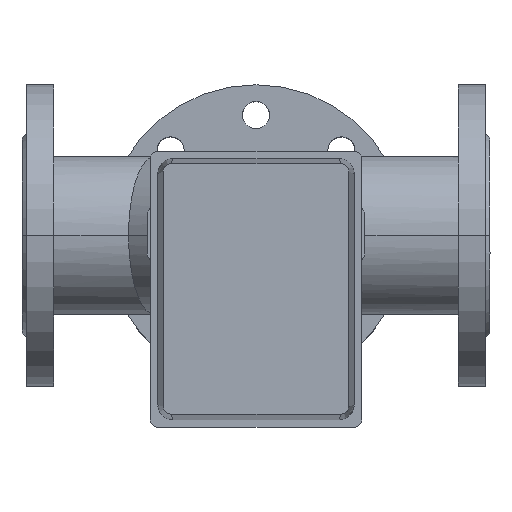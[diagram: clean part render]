
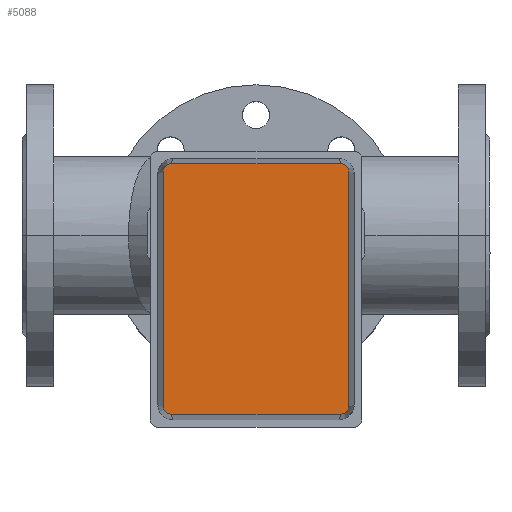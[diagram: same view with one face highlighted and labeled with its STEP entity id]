
A CAD part, top view. The second image highlights one B-rep face of the part: STEP entity #5088.
In plain terms, the highlighted planar face has unit normal (0, 0, 1).
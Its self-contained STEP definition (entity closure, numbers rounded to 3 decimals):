
#426=LINE('',#9183,#720);
#427=LINE('',#9187,#721);
#428=LINE('',#9191,#722);
#429=LINE('',#9195,#723);
#720=VECTOR('',#7085,304.8);
#721=VECTOR('',#7088,304.8);
#722=VECTOR('',#7091,304.8);
#723=VECTOR('',#7094,304.8);
#1252=FACE_OUTER_BOUND('',#1613,.T.);
#1613=EDGE_LOOP('',(#4220,#4221,#4222,#4223,#4224,#4225,#4226,#4227));
#1978=CIRCLE('',#5682,5.);
#1979=CIRCLE('',#5683,5.);
#1980=CIRCLE('',#5684,5.);
#1981=CIRCLE('',#5685,5.);
#2391=VERTEX_POINT('',#9181);
#2392=VERTEX_POINT('',#9182);
#2393=VERTEX_POINT('',#9184);
#2394=VERTEX_POINT('',#9186);
#2395=VERTEX_POINT('',#9188);
#2396=VERTEX_POINT('',#9190);
#2397=VERTEX_POINT('',#9192);
#2398=VERTEX_POINT('',#9194);
#3015=EDGE_CURVE('',#2391,#2392,#426,.T.);
#3016=EDGE_CURVE('',#2392,#2393,#1978,.T.);
#3017=EDGE_CURVE('',#2393,#2394,#427,.T.);
#3018=EDGE_CURVE('',#2394,#2395,#1979,.T.);
#3019=EDGE_CURVE('',#2395,#2396,#428,.T.);
#3020=EDGE_CURVE('',#2396,#2397,#1980,.T.);
#3021=EDGE_CURVE('',#2397,#2398,#429,.T.);
#3022=EDGE_CURVE('',#2398,#2391,#1981,.T.);
#4220=ORIENTED_EDGE('',*,*,#3015,.T.);
#4221=ORIENTED_EDGE('',*,*,#3016,.T.);
#4222=ORIENTED_EDGE('',*,*,#3017,.T.);
#4223=ORIENTED_EDGE('',*,*,#3018,.T.);
#4224=ORIENTED_EDGE('',*,*,#3019,.T.);
#4225=ORIENTED_EDGE('',*,*,#3020,.T.);
#4226=ORIENTED_EDGE('',*,*,#3021,.T.);
#4227=ORIENTED_EDGE('',*,*,#3022,.T.);
#4544=PLANE('',#5681);
#5088=ADVANCED_FACE('',(#1252),#4544,.T.);
#5681=AXIS2_PLACEMENT_3D('',#9180,#7083,#7084);
#5682=AXIS2_PLACEMENT_3D('',#9185,#7086,#7087);
#5683=AXIS2_PLACEMENT_3D('',#9189,#7089,#7090);
#5684=AXIS2_PLACEMENT_3D('',#9193,#7092,#7093);
#5685=AXIS2_PLACEMENT_3D('',#9196,#7095,#7096);
#7083=DIRECTION('center_axis',(0.,0.,1.));
#7084=DIRECTION('ref_axis',(0.,-1.,0.));
#7085=DIRECTION('',(0.,-1.,0.));
#7086=DIRECTION('center_axis',(0.,0.,1.));
#7087=DIRECTION('ref_axis',(1.,0.,0.));
#7088=DIRECTION('',(1.,0.,0.));
#7089=DIRECTION('center_axis',(0.,0.,1.));
#7090=DIRECTION('ref_axis',(1.,0.,0.));
#7091=DIRECTION('',(0.,1.,0.));
#7092=DIRECTION('center_axis',(0.,0.,1.));
#7093=DIRECTION('ref_axis',(1.,0.,0.));
#7094=DIRECTION('',(-1.,0.,0.));
#7095=DIRECTION('center_axis',(0.,0.,1.));
#7096=DIRECTION('ref_axis',(1.,0.,0.));
#9180=CARTESIAN_POINT('Origin',(-36.469,0.,
506.));
#9181=CARTESIAN_POINT('',(-119.36,56.4,506.));
#9182=CARTESIAN_POINT('',(-119.36,-56.4,506.));
#9183=CARTESIAN_POINT('',(-119.36,-56.4,506.));
#9184=CARTESIAN_POINT('',(-114.36,-61.4,506.));
#9185=CARTESIAN_POINT('Origin',(-114.36,-56.4,506.));
#9186=CARTESIAN_POINT('',(41.421,-61.4,506.));
#9187=CARTESIAN_POINT('',(41.421,-61.4,506.));
#9188=CARTESIAN_POINT('',(46.421,-56.4,506.));
#9189=CARTESIAN_POINT('Origin',(41.421,-56.4,506.));
#9190=CARTESIAN_POINT('',(46.421,56.4,506.));
#9191=CARTESIAN_POINT('',(46.421,56.4,506.));
#9192=CARTESIAN_POINT('',(41.421,61.4,506.));
#9193=CARTESIAN_POINT('Origin',(41.421,56.4,506.));
#9194=CARTESIAN_POINT('',(-114.36,61.4,506.));
#9195=CARTESIAN_POINT('',(-114.36,61.4,506.));
#9196=CARTESIAN_POINT('Origin',(-114.36,56.4,506.));
